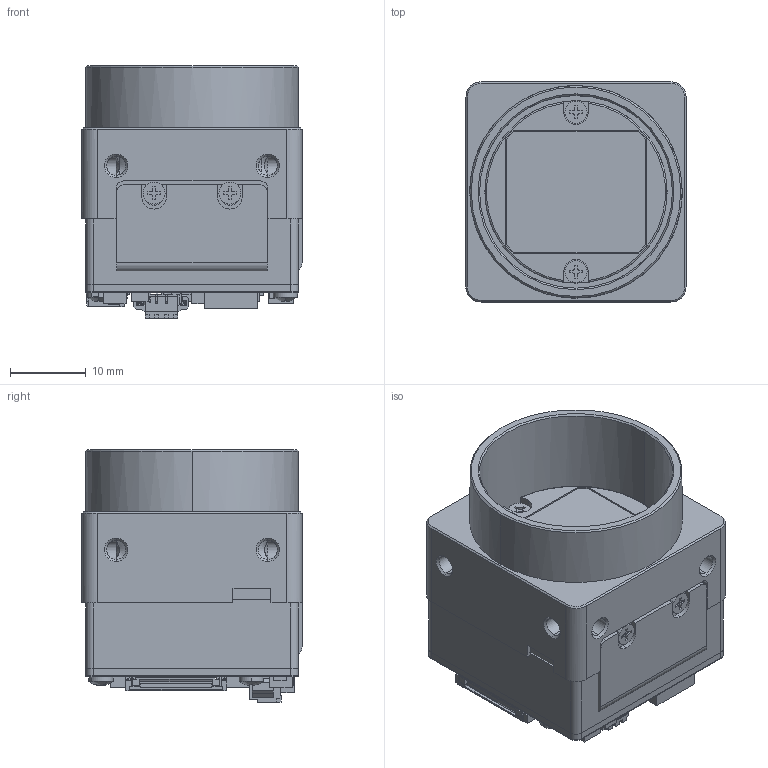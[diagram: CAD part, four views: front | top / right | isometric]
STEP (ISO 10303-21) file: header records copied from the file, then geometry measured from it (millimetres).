
FILE_DESCRIPTION (( 'STEP AP203' ), '1' );
FILE_NAME ('×°ÅäÌå1.STEP', '2022-03-03T09:12:19', ( '' ), ( '' ), 'SwSTEP 2.0', 'SolidWorks 2016', '' );
FILE_SCHEMA (( 'CONFIG_CONTROL_DESIGN' ));
Products named in the file (1): 蚾饜极1
Bounding box: 29 x 29 x 33.3 mm (x, y, z)
Volume: 20400.1 mm3; surface area: 21453.4 mm2
Topology: 180 solids, 185 shells, 4436 faces, 11304 edges, 7475 vertices
Faces by surface type: plane 3327, cylinder 847, bspline 193, cone 63, torus 4, sphere 2
Entity records: 152045 total; most frequent: CARTESIAN_POINT 47184, ORIENTED_EDGE 22584, DIRECTION 19679, EDGE_CURVE 11292, LINE 8817, VECTOR 8817, VERTEX_POINT 7473, AXIS2_PLACEMENT_3D 5431
